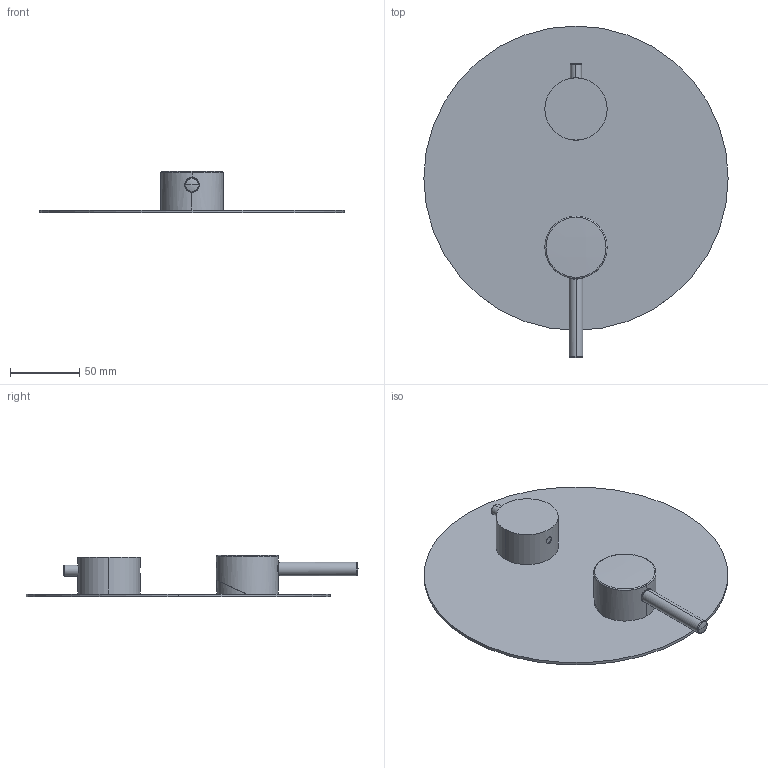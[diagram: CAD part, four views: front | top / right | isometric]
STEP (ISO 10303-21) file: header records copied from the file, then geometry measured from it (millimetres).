
FILE_DESCRIPTION (( 'STEP AP214' ), '1' );
FILE_NAME ('12226110 x architetti.STEP', '2024-09-13T15:08:53', ( '' ), ( '' ), 'SwSTEP 2.0', 'SolidWorks 2020', '' );
FILE_SCHEMA (( 'AUTOMOTIVE_DESIGN' ));
Length unit declared in the file: millimetre
Products named in the file (1): 12226110 x architetti
Bounding box: 220 x 240 x 30.14 mm (x, y, z)
Volume: 167313.4 mm3; surface area: 87290.1 mm2
Topology: 1 solids, 2 shells, 40 faces, 88 edges, 52 vertices
Faces by surface type: cylinder 20, bspline 11, plane 5, torus 2, cone 2
Entity records: 2396 total; most frequent: CARTESIAN_POINT 1183, ORIENTED_EDGE 168, DIRECTION 152, EDGE_CURVE 84, AXIS2_PLACEMENT_3D 65, VERTEX_POINT 52, EDGE_LOOP 44, ADVANCED_FACE 40
